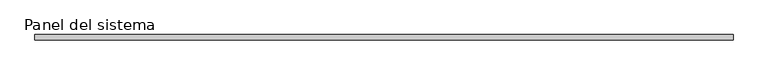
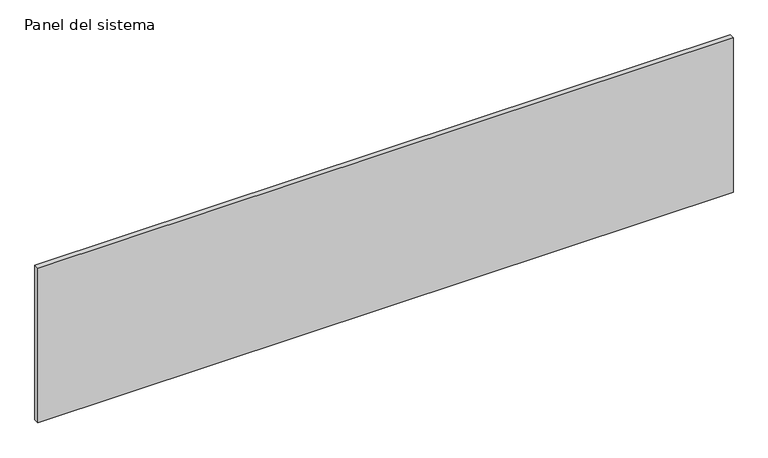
"""IFC4 building model written with IfcOpenShell, lengths in millimetres: plate geometry, Panel del sistema : HIANSA - CHAPA PERFILADA CUBIERTA - MT32F Hor."""

from ifc_helpers import new_model, si_unit, origin, origin_with_axes, place, context, project, spatial, polyline, outline, extrude, source, transform, mapped, element, save


def panel_del_sistema_3412c4c4(model_context):
    return source(origin(), model_context, "Body", "SweptSolid", [
        extrude(outline(polyline([(2128.0, -32.0), (-2128.0, -32.0), (-2128.0, 0.0), (2128.0, 0.0), (2128.0, -32.0)])), origin_with_axes(), (0.0, 0.0, 1.0), 1000.0),
    ])


if __name__ == "__main__":
    model = new_model("IFC4")
    model_context = context("Model", 3, world=origin())
    ifc_project = project(units=[si_unit("LENGTHUNIT", "METRE", prefix="MILLI")], contexts=[model_context])
    site = spatial("IfcSite", under=ifc_project)
    building = spatial("IfcBuilding", under=site)
    placement = place(None, origin())
    panel_del_sistema_shape = panel_del_sistema_3412c4c4(model_context)
    element("IfcPlate", 1, ObjectType="Panel del sistema : HIANSA - CHAPA PERFILADA CUBIERTA - MT32F Hor", at=placement, inside=building, context=model_context, shape_type="MappedRepresentation", body=[
        mapped(panel_del_sistema_shape, transform((0.0, 0.0, 0.0), x_axis=(1.0, 0.0, 0.0), y_axis=(0.0, 1.0, 0.0), z_axis=(0.0, 0.0, 1.0))),
    ])
    save(model, "model.ifc")
